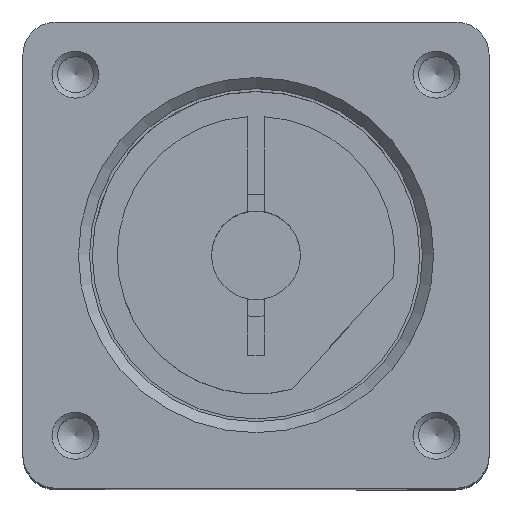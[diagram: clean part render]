
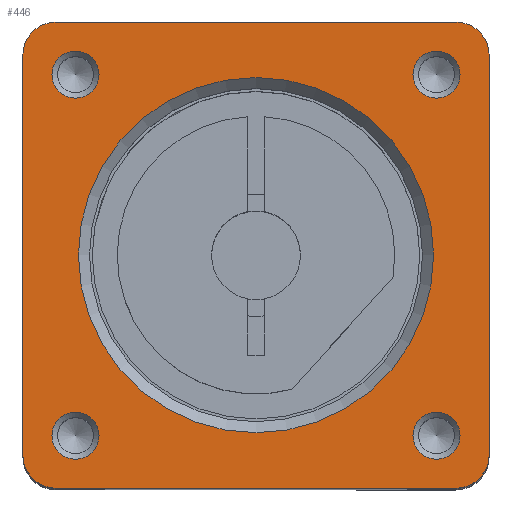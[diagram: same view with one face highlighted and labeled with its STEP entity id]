
A CAD part, top view. The second image highlights one B-rep face of the part: STEP entity #446.
In plain terms, the highlighted planar face has unit normal (0, 0, 1).
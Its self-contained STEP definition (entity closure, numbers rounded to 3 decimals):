
#312=CARTESIAN_POINT('',(-34.22,-17.438,90.172));
#313=VERTEX_POINT('',#312);
#314=CARTESIAN_POINT('',(-32.099,-17.438,90.172));
#315=DIRECTION('',(0.0,0.0,1.0));
#316=DIRECTION('',(1.0,0.0,0.0));
#317=AXIS2_PLACEMENT_3D('',#314,#315,#316);
#318=CIRCLE('',#317,2.121);
#319=EDGE_CURVE('',#313,#313,#318,.T.);
#324=CARTESIAN_POINT('',(-15.835,-1.174,90.172));
#325=DIRECTION('',(0.0,0.0,1.0));
#326=DIRECTION('',(1.0,0.0,0.0));
#327=AXIS2_PLACEMENT_3D('',#324,#325,#326);
#328=PLANE('',#327);
#329=CARTESIAN_POINT('',(-36.835,16.826,90.172));
#330=VERTEX_POINT('',#329);
#331=CARTESIAN_POINT('',(-33.835,19.826,90.172));
#332=VERTEX_POINT('',#331);
#333=CARTESIAN_POINT('',(-33.835,16.826,90.172));
#334=DIRECTION('',(0.0,0.0,-1.0));
#335=DIRECTION('',(0.0,1.0,0.0));
#336=AXIS2_PLACEMENT_3D('',#333,#334,#335);
#337=CIRCLE('',#336,3.);
#338=EDGE_CURVE('',#330,#332,#337,.T.);
#339=ORIENTED_EDGE('',*,*,#338,.F.);
#340=CARTESIAN_POINT('',(-36.835,-19.174,90.172));
#341=VERTEX_POINT('',#340);
#342=CARTESIAN_POINT('',(-36.835,-19.174,90.172));
#343=DIRECTION('',(0.0,1.0,0.0));
#344=VECTOR('',#343,36.);
#345=LINE('',#342,#344);
#346=EDGE_CURVE('',#341,#330,#345,.T.);
#347=ORIENTED_EDGE('',*,*,#346,.F.);
#348=CARTESIAN_POINT('',(-33.835,-22.174,90.172));
#349=VERTEX_POINT('',#348);
#350=CARTESIAN_POINT('',(-33.835,-19.174,90.172));
#351=DIRECTION('',(0.0,0.0,-1.0));
#352=DIRECTION('',(-1.0,0.0,0.0));
#353=AXIS2_PLACEMENT_3D('',#350,#351,#352);
#354=CIRCLE('',#353,3.);
#355=EDGE_CURVE('',#349,#341,#354,.T.);
#356=ORIENTED_EDGE('',*,*,#355,.F.);
#357=CARTESIAN_POINT('',(2.165,-22.174,90.172));
#358=VERTEX_POINT('',#357);
#359=CARTESIAN_POINT('',(2.165,-22.174,90.172));
#360=DIRECTION('',(-1.0,0.0,0.0));
#361=VECTOR('',#360,36.);
#362=LINE('',#359,#361);
#363=EDGE_CURVE('',#358,#349,#362,.T.);
#364=ORIENTED_EDGE('',*,*,#363,.F.);
#365=CARTESIAN_POINT('',(5.165,-19.174,90.172));
#366=VERTEX_POINT('',#365);
#367=CARTESIAN_POINT('',(2.165,-19.174,90.172));
#368=DIRECTION('',(0.0,0.0,-1.0));
#369=DIRECTION('',(0.0,-1.0,0.0));
#370=AXIS2_PLACEMENT_3D('',#367,#368,#369);
#371=CIRCLE('',#370,3.);
#372=EDGE_CURVE('',#366,#358,#371,.T.);
#373=ORIENTED_EDGE('',*,*,#372,.F.);
#374=CARTESIAN_POINT('',(5.165,16.826,90.172));
#375=VERTEX_POINT('',#374);
#376=CARTESIAN_POINT('',(5.165,16.826,90.172));
#377=DIRECTION('',(0.0,-1.0,0.0));
#378=VECTOR('',#377,36.);
#379=LINE('',#376,#378);
#380=EDGE_CURVE('',#375,#366,#379,.T.);
#381=ORIENTED_EDGE('',*,*,#380,.F.);
#382=CARTESIAN_POINT('',(2.165,19.826,90.172));
#383=VERTEX_POINT('',#382);
#384=CARTESIAN_POINT('',(2.165,16.826,90.172));
#385=DIRECTION('',(0.0,0.0,-1.0));
#386=DIRECTION('',(1.0,0.0,0.0));
#387=AXIS2_PLACEMENT_3D('',#384,#385,#386);
#388=CIRCLE('',#387,3.);
#389=EDGE_CURVE('',#383,#375,#388,.T.);
#390=ORIENTED_EDGE('',*,*,#389,.F.);
#391=CARTESIAN_POINT('',(-33.835,19.826,90.172));
#392=DIRECTION('',(1.0,0.0,0.0));
#393=VECTOR('',#392,36.0);
#394=LINE('',#391,#393);
#395=EDGE_CURVE('',#332,#383,#394,.T.);
#396=ORIENTED_EDGE('',*,*,#395,.F.);
#397=EDGE_LOOP('',(#339,#347,#356,#364,#373,#381,#390,#396));
#398=FACE_OUTER_BOUND('',#397,.T.);
#399=CARTESIAN_POINT('',(0.428,-19.559,90.172));
#400=VERTEX_POINT('',#399);
#401=CARTESIAN_POINT('',(0.428,-17.438,90.172));
#402=DIRECTION('',(0.0,0.0,1.0));
#403=DIRECTION('',(0.0,1.0,0.0));
#404=AXIS2_PLACEMENT_3D('',#401,#402,#403);
#405=CIRCLE('',#404,2.121);
#406=EDGE_CURVE('',#400,#400,#405,.T.);
#407=ORIENTED_EDGE('',*,*,#406,.F.);
#408=EDGE_LOOP('',(#407));
#409=FACE_BOUND('',#408,.T.);
#410=CARTESIAN_POINT('',(-32.099,17.21,90.172));
#411=VERTEX_POINT('',#410);
#412=CARTESIAN_POINT('',(-32.099,15.089,90.172));
#413=DIRECTION('',(0.0,0.0,1.0));
#414=DIRECTION('',(0.0,-1.0,0.0));
#415=AXIS2_PLACEMENT_3D('',#412,#413,#414);
#416=CIRCLE('',#415,2.121);
#417=EDGE_CURVE('',#411,#411,#416,.T.);
#418=ORIENTED_EDGE('',*,*,#417,.F.);
#419=EDGE_LOOP('',(#418));
#420=FACE_BOUND('',#419,.T.);
#421=CARTESIAN_POINT('',(0.165,-1.174,90.172));
#422=VERTEX_POINT('',#421);
#423=CARTESIAN_POINT('',(-15.835,-1.174,90.172));
#424=DIRECTION('',(0.0,0.0,1.0));
#425=DIRECTION('',(-1.0,0.0,0.0));
#426=AXIS2_PLACEMENT_3D('',#423,#424,#425);
#427=CIRCLE('',#426,16.0);
#428=EDGE_CURVE('',#422,#422,#427,.T.);
#429=ORIENTED_EDGE('',*,*,#428,.F.);
#430=EDGE_LOOP('',(#429));
#431=FACE_BOUND('',#430,.T.);
#432=CARTESIAN_POINT('',(2.549,15.089,90.172));
#433=VERTEX_POINT('',#432);
#434=CARTESIAN_POINT('',(0.428,15.089,90.172));
#435=DIRECTION('',(0.0,0.0,1.0));
#436=DIRECTION('',(-1.0,0.0,0.0));
#437=AXIS2_PLACEMENT_3D('',#434,#435,#436);
#438=CIRCLE('',#437,2.121);
#439=EDGE_CURVE('',#433,#433,#438,.T.);
#440=ORIENTED_EDGE('',*,*,#439,.F.);
#441=EDGE_LOOP('',(#440));
#442=FACE_BOUND('',#441,.T.);
#443=ORIENTED_EDGE('',*,*,#319,.F.);
#444=EDGE_LOOP('',(#443));
#445=FACE_BOUND('',#444,.T.);
#446=ADVANCED_FACE('',(#398,#409,#420,#431,#442,#445),#328,.T.);
